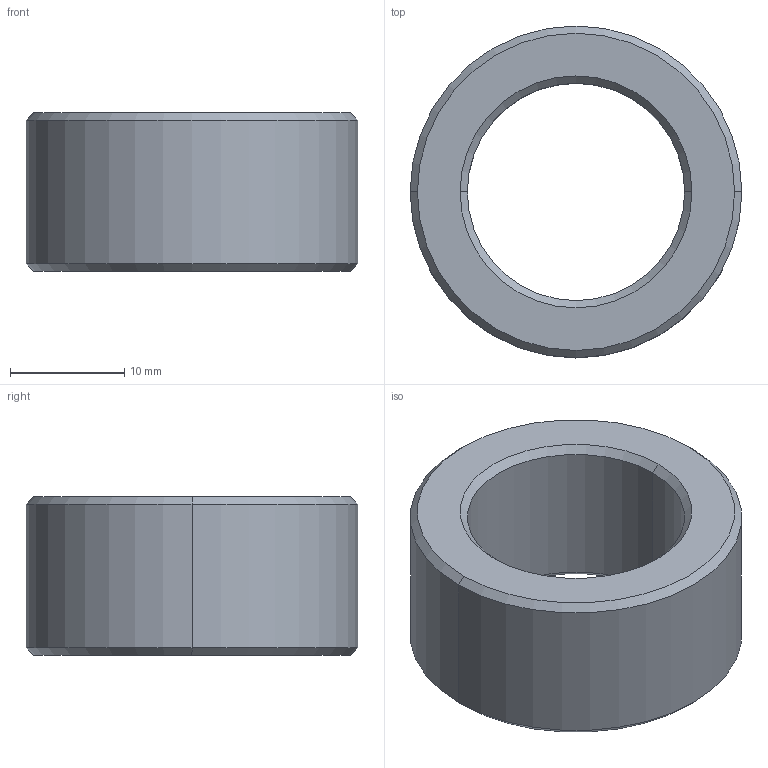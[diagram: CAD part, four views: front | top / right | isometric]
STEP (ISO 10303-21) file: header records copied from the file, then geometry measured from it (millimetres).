
FILE_DESCRIPTION (( 'STEP AP214' ), '1' );
FILE_NAME ('2661801202~cat.STEP', '2025-02-18T15:29:34', ( '' ), ( '' ), 'SwSTEP 2.0', 'SolidWorks 2025', '' );
FILE_SCHEMA (( 'AUTOMOTIVE_DESIGN' ));
Length unit declared in the file: millimetre
Products named in the file (1): 2661801202~cat
Bounding box: 29 x 29 x 13.85 mm (x, y, z)
Volume: 5160.5 mm3; surface area: 2730.3 mm2
Topology: 1 solids, 1 shells, 14 faces, 28 edges, 16 vertices
Faces by surface type: cone 8, cylinder 4, plane 2
Entity records: 391 total; most frequent: DIRECTION 74, CARTESIAN_POINT 59, ORIENTED_EDGE 56, AXIS2_PLACEMENT_3D 31, EDGE_CURVE 28, CIRCLE 16, VERTEX_POINT 16, EDGE_LOOP 16
